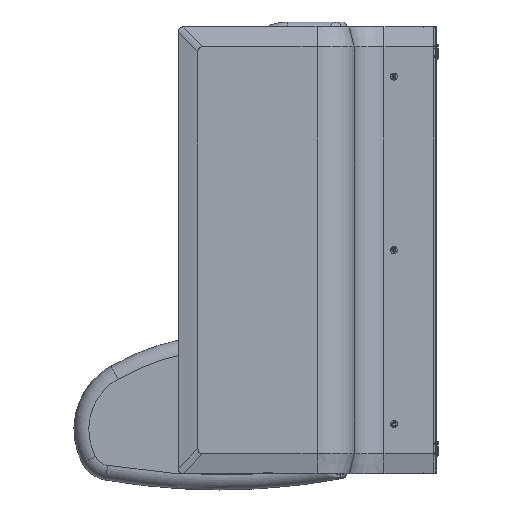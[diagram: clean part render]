
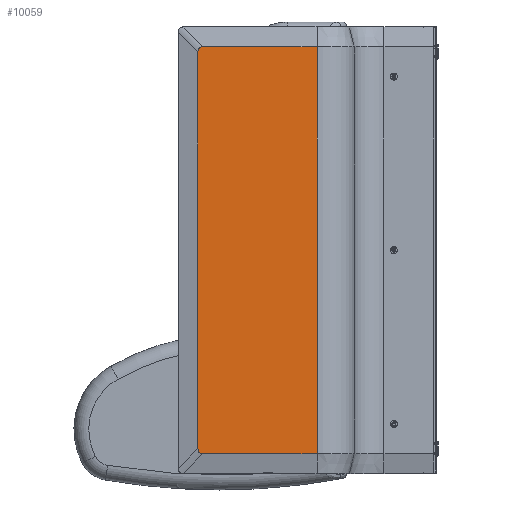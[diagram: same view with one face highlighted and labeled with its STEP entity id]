
A CAD part, left-side view. The second image highlights one B-rep face of the part: STEP entity #10059.
In plain terms, the highlighted planar face has unit normal (-1, 0, 0).
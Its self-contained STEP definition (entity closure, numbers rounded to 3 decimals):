
#95 = CARTESIAN_POINT ( 'NONE',  ( -162.5, 475., -399.935 ) ) ;
#240 = VECTOR ( 'NONE', #7738, 1000. ) ;
#410 = CARTESIAN_POINT ( 'NONE',  ( -162.5, 515., 410. ) ) ;
#576 = CARTESIAN_POINT ( 'NONE',  ( -162.5, 464.935, 410. ) ) ;
#1113 = ORIENTED_EDGE ( 'NONE', *, *, #1561, .T. ) ;
#1147 = VERTEX_POINT ( 'NONE', #3503 ) ;
#1308 = CARTESIAN_POINT ( 'NONE',  ( -162.5, 515., -410. ) ) ;
#1561 = EDGE_CURVE ( 'NONE', #1147, #11192, #4045, .T. ) ;
#1610 = ORIENTED_EDGE ( 'NONE', *, *, #4092, .T. ) ;
#2199 =( BOUNDED_CURVE ( )  B_SPLINE_CURVE ( 3, ( #576, #6028, #5109, #9666 ),
 .UNSPECIFIED., .F., .F. ) 
 B_SPLINE_CURVE_WITH_KNOTS ( ( 4, 4 ),
 ( 2.969, 3.314 ),
 .UNSPECIFIED. ) 
 CURVE ( )  GEOMETRIC_REPRESENTATION_ITEM ( )  RATIONAL_B_SPLINE_CURVE ( ( 1., 0.99, 0.99, 1. ) ) 
 REPRESENTATION_ITEM ( '' )  );
#2942 = ORIENTED_EDGE ( 'NONE', *, *, #7226, .T. ) ;
#3357 = VECTOR ( 'NONE', #7654, 1000. ) ;
#3503 = CARTESIAN_POINT ( 'NONE',  ( -162.5, 475., 399.935 ) ) ;
#3873 = CARTESIAN_POINT ( 'NONE',  ( -162.5, 475., -399.935 ) ) ;
#4007 = CARTESIAN_POINT ( 'NONE',  ( -162.5, 475., -406.611 ) ) ;
#4045 = LINE ( 'NONE', #11225, #240 ) ;
#4052 = LINE ( 'NONE', #1308, #11450 ) ;
#4092 = EDGE_CURVE ( 'NONE', #9349, #10237, #8543, .T. ) ;
#4190 = CARTESIAN_POINT ( 'NONE',  ( -162.5, 235., -410. ) ) ;
#4426 = VERTEX_POINT ( 'NONE', #4190 ) ;
#4463 = ORIENTED_EDGE ( 'NONE', *, *, #5673, .T. ) ;
#4575 = CARTESIAN_POINT ( 'NONE',  ( -162.5, 235., 410. ) ) ;
#5025 =( BOUNDED_CURVE ( )  B_SPLINE_CURVE ( 3, ( #95, #4007, #7521, #9558 ),
 .UNSPECIFIED., .F., .F. ) 
 B_SPLINE_CURVE_WITH_KNOTS ( ( 4, 4 ),
 ( 2.969, 3.314 ),
 .UNSPECIFIED. ) 
 CURVE ( )  GEOMETRIC_REPRESENTATION_ITEM ( )  RATIONAL_B_SPLINE_CURVE ( ( 1., 0.99, 0.99, 1. ) ) 
 REPRESENTATION_ITEM ( '' )  );
#5109 = CARTESIAN_POINT ( 'NONE',  ( -162.5, 475., 406.611 ) ) ;
#5170 = EDGE_CURVE ( 'NONE', #11192, #9171, #5025, .T. ) ;
#5226 = DIRECTION ( 'NONE',  ( 0., 0., -1. ) ) ;
#5673 = EDGE_CURVE ( 'NONE', #9171, #4426, #4052, .T. ) ;
#5758 = EDGE_CURVE ( 'NONE', #9349, #4426, #11644, .T. ) ;
#5830 = ORIENTED_EDGE ( 'NONE', *, *, #5758, .F. ) ;
#6028 = CARTESIAN_POINT ( 'NONE',  ( -162.5, 471.611, 410. ) ) ;
#6089 = DIRECTION ( 'NONE',  ( 1., 0., 0. ) ) ;
#7086 = CARTESIAN_POINT ( 'NONE',  ( -162.5, 235., 450. ) ) ;
#7226 = EDGE_CURVE ( 'NONE', #10237, #1147, #2199, .T. ) ;
#7445 = CARTESIAN_POINT ( 'NONE',  ( -162.5, 464.935, 410. ) ) ;
#7521 = CARTESIAN_POINT ( 'NONE',  ( -162.5, 471.611, -410. ) ) ;
#7654 = DIRECTION ( 'NONE',  ( 0., 1., 0. ) ) ;
#7738 = DIRECTION ( 'NONE',  ( 0., 0., -1. ) ) ;
#8543 = LINE ( 'NONE', #410, #3357 ) ;
#8734 = AXIS2_PLACEMENT_3D ( 'NONE', #9965, #6089, #5226 ) ;
#8767 = EDGE_LOOP ( 'NONE', ( #1610, #2942, #1113, #10720, #4463, #5830 ) ) ;
#8832 = FACE_OUTER_BOUND ( 'NONE', #8767, .T. ) ;
#9171 = VERTEX_POINT ( 'NONE', #11864 ) ;
#9349 = VERTEX_POINT ( 'NONE', #4575 ) ;
#9558 = CARTESIAN_POINT ( 'NONE',  ( -162.5, 464.935, -410. ) ) ;
#9666 = CARTESIAN_POINT ( 'NONE',  ( -162.5, 475., 399.935 ) ) ;
#9725 = DIRECTION ( 'NONE',  ( 0., -1., 0. ) ) ;
#9965 = CARTESIAN_POINT ( 'NONE',  ( -162.5, 515., -450. ) ) ;
#10059 = ADVANCED_FACE ( 'NONE', ( #8832 ), #10693, .F. ) ;
#10237 = VERTEX_POINT ( 'NONE', #7445 ) ;
#10291 = VECTOR ( 'NONE', #10743, 1000. ) ;
#10693 = PLANE ( 'NONE',  #8734 ) ;
#10720 = ORIENTED_EDGE ( 'NONE', *, *, #5170, .T. ) ;
#10743 = DIRECTION ( 'NONE',  ( 0., 0., -1. ) ) ;
#11192 = VERTEX_POINT ( 'NONE', #3873 ) ;
#11225 = CARTESIAN_POINT ( 'NONE',  ( -162.5, 475., -410. ) ) ;
#11450 = VECTOR ( 'NONE', #9725, 1000. ) ;
#11644 = LINE ( 'NONE', #7086, #10291 ) ;
#11864 = CARTESIAN_POINT ( 'NONE',  ( -162.5, 464.935, -410. ) ) ;
